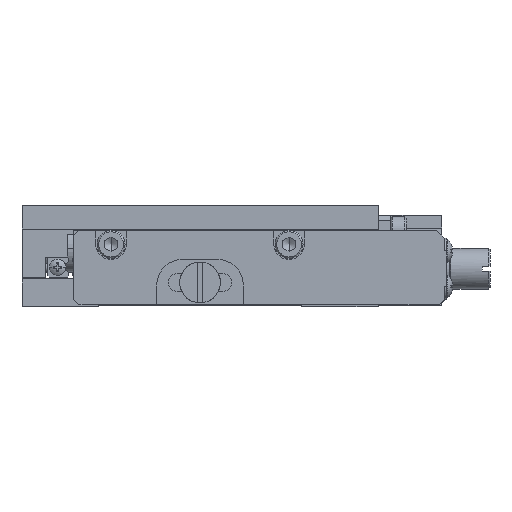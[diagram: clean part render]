
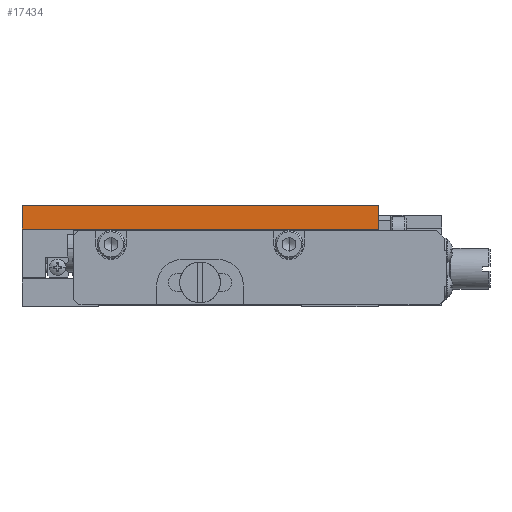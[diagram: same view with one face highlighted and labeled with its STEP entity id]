
A CAD part, left-side view. The second image highlights one B-rep face of the part: STEP entity #17434.
In plain terms, the highlighted planar face has unit normal (-1, 0, 0) as drawn and (0, 1, 0) by its records, which use the part's own axes.
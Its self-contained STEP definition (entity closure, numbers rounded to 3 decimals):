
#17234 = VERTEX_POINT ( 'NONE', #49398 ) ;
#17240 = VERTEX_POINT ( 'NONE', #49375 ) ;
#17242 = EDGE_CURVE ( 'NONE', #17234, #17240, #49374, .T. ) ;
#17381 = EDGE_CURVE ( 'NONE', #17382, #17234, #49725, .T. ) ;
#17382 = VERTEX_POINT ( 'NONE', #49721 ) ;
#17434 = ADVANCED_FACE ( 'NONE', ( #49776 ), #49772, .T. ) ;
#17435 = EDGE_LOOP ( 'NONE', ( #17436, #17498, #17499, #17500 ) ) ;
#17436 = ORIENTED_EDGE ( 'NONE', *, *, #17437, .F. ) ;
#17437 = EDGE_CURVE ( 'NONE', #17382, #17438, #49773, .T. ) ;
#17438 = VERTEX_POINT ( 'NONE', #49829 ) ;
#17498 = ORIENTED_EDGE ( 'NONE', *, *, #17381, .T. ) ;
#17499 = ORIENTED_EDGE ( 'NONE', *, *, #17242, .T. ) ;
#17500 = ORIENTED_EDGE ( 'NONE', *, *, #17501, .F. ) ;
#17501 = EDGE_CURVE ( 'NONE', #17438, #17240, #49916, .T. ) ;
#49369 = DIRECTION ( 'NONE',  ( 1., 0., 0. ) ) ;
#49371 = VECTOR ( 'NONE', #49369, 1000. ) ;
#49372 = CARTESIAN_POINT ( 'NONE',  ( 0., 35., 0. ) ) ;
#49374 = LINE ( 'NONE', #49372, #49371 ) ;
#49375 = CARTESIAN_POINT ( 'NONE',  ( 35., 35., 0. ) ) ;
#49398 = CARTESIAN_POINT ( 'NONE',  ( -35., 35., 0. ) ) ;
#49721 = CARTESIAN_POINT ( 'NONE',  ( -35., 35., -4.7 ) ) ;
#49722 = DIRECTION ( 'NONE',  ( 0., 0., 1. ) ) ;
#49723 = VECTOR ( 'NONE', #49722, 1000. ) ;
#49724 = CARTESIAN_POINT ( 'NONE',  ( -35., 35., -5.7 ) ) ;
#49725 = LINE ( 'NONE', #49724, #49723 ) ;
#49772 = PLANE ( 'NONE',  #49775 ) ;
#49773 = LINE ( 'NONE', #49832, #49831 ) ;
#49774 = CARTESIAN_POINT ( 'NONE',  ( 0., 35., -5.7 ) ) ;
#49775 = AXIS2_PLACEMENT_3D ( 'NONE', #49774, #49834, #49833 ) ;
#49776 = FACE_OUTER_BOUND ( 'NONE', #17435, .T. ) ;
#49829 = CARTESIAN_POINT ( 'NONE',  ( 35., 35., -4.7 ) ) ;
#49830 = DIRECTION ( 'NONE',  ( 1., 0., 0. ) ) ;
#49831 = VECTOR ( 'NONE', #49830, 1000. ) ;
#49832 = CARTESIAN_POINT ( 'NONE',  ( 0., 35., -4.7 ) ) ;
#49833 = DIRECTION ( 'NONE',  ( 0., 0., 1. ) ) ;
#49834 = DIRECTION ( 'NONE',  ( 0., 1., 0. ) ) ;
#49913 = DIRECTION ( 'NONE',  ( 0., 0., 1. ) ) ;
#49914 = VECTOR ( 'NONE', #49913, 1000. ) ;
#49915 = CARTESIAN_POINT ( 'NONE',  ( 35., 35., -5.7 ) ) ;
#49916 = LINE ( 'NONE', #49915, #49914 ) ;
